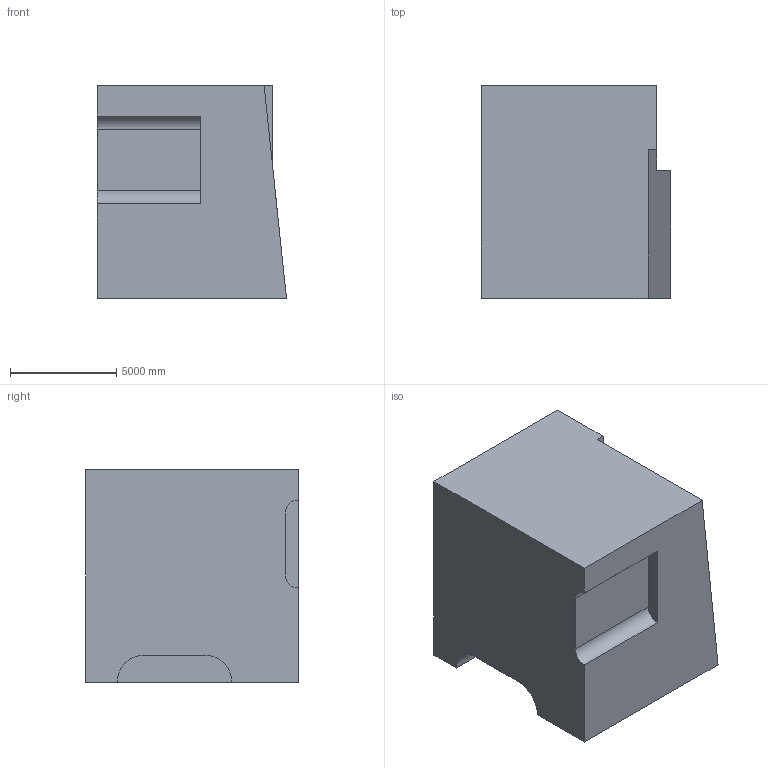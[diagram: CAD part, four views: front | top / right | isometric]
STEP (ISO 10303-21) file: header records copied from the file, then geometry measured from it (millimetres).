
FILE_DESCRIPTION (( 'STEP AP203' ), '1' );
FILE_NAME ('1385.STEP', '2022-08-18T14:10:19', ( 'user' ), ( '' ), 'SwSTEP 2.0', 'SolidWorks 2021', '' );
FILE_SCHEMA (( 'CONFIG_CONTROL_DESIGN' ));
Length unit declared in the file: centimetre
Products named in the file (1): 1385
Bounding box: 8887.6 x 10000 x 10000 mm (x, y, z)
Volume: 794007607831 mm3; surface area: 543969496.8 mm2
Topology: 1 solids, 1 shells, 17 faces, 45 edges, 30 vertices
Faces by surface type: plane 13, cylinder 4
Entity records: 604 total; most frequent: CARTESIAN_POINT 93, ORIENTED_EDGE 90, DIRECTION 89, EDGE_CURVE 45, VECTOR 37, LINE 37, VERTEX_POINT 30, AXIS2_PLACEMENT_3D 26
